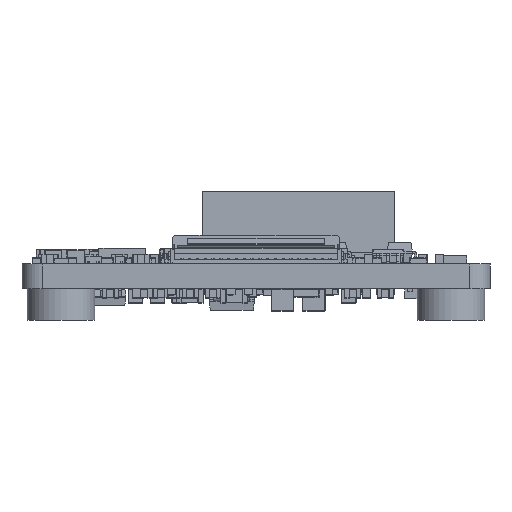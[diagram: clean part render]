
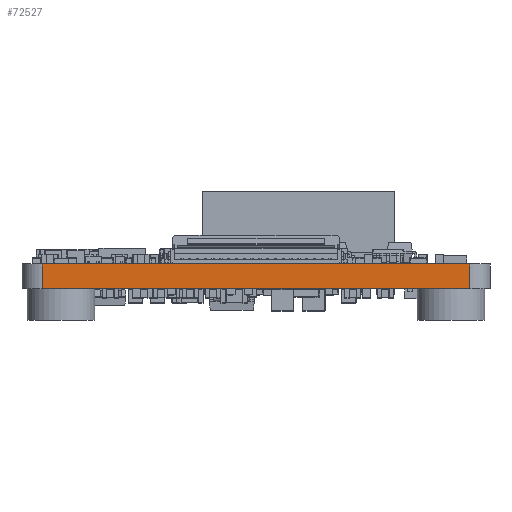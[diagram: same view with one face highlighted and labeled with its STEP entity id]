
A CAD part, front view. The second image highlights one B-rep face of the part: STEP entity #72527.
In plain terms, the highlighted planar face has unit normal (0, -1, 0).
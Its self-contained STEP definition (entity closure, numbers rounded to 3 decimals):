
#2084 = CARTESIAN_POINT ( 'NONE',  ( 13.984, 71.817, -39.658 ) ) ;
#11204 = VERTEX_POINT ( 'NONE', #45528 ) ;
#27585 = DIRECTION ( 'NONE',  ( 0., 0., 1. ) ) ;
#29909 = CARTESIAN_POINT ( 'NONE',  ( 13.984, 71.817, -39.658 ) ) ;
#30990 = ORIENTED_EDGE ( 'NONE', *, *, #83361, .F. ) ;
#34970 = LINE ( 'NONE', #52638, #153326 ) ;
#37189 = LINE ( 'NONE', #58312, #166605 ) ;
#44278 = CARTESIAN_POINT ( 'NONE',  ( -13.421, 71.817, -38.078 ) ) ;
#45528 = CARTESIAN_POINT ( 'NONE',  ( -13.421, 71.817, -39.658 ) ) ;
#52638 = CARTESIAN_POINT ( 'NONE',  ( 13.984, 71.817, -39.658 ) ) ;
#58312 = CARTESIAN_POINT ( 'NONE',  ( 13.984, 71.817, -38.078 ) ) ;
#68656 = LINE ( 'NONE', #193349, #137420 ) ;
#72527 = ADVANCED_FACE ( 'NONE', ( #180861 ), #216155, .T. ) ;
#78501 = VERTEX_POINT ( 'NONE', #44278 ) ;
#83361 = EDGE_CURVE ( 'NONE', #11204, #78501, #216381, .T. ) ;
#85055 = EDGE_CURVE ( 'NONE', #182717, #11204, #34970, .T. ) ;
#107788 = DIRECTION ( 'NONE',  ( -1., 0., 0. ) ) ;
#107882 = DIRECTION ( 'NONE',  ( -1., 0., 0. ) ) ;
#109044 = DIRECTION ( 'NONE',  ( 0., -1., 0. ) ) ;
#122263 = ORIENTED_EDGE ( 'NONE', *, *, #182733, .T. ) ;
#131499 = EDGE_CURVE ( 'NONE', #142406, #78501, #37189, .T. ) ;
#137420 = VECTOR ( 'NONE', #27585, 1000. ) ;
#142406 = VERTEX_POINT ( 'NONE', #231297 ) ;
#153326 = VECTOR ( 'NONE', #107788, 1000. ) ;
#160536 = VECTOR ( 'NONE', #197580, 1000. ) ;
#166506 = AXIS2_PLACEMENT_3D ( 'NONE', #2084, #109044, #107882 ) ;
#166605 = VECTOR ( 'NONE', #217106, 1000. ) ;
#179763 = ORIENTED_EDGE ( 'NONE', *, *, #85055, .F. ) ;
#179938 = CARTESIAN_POINT ( 'NONE',  ( -13.421, 71.817, -39.658 ) ) ;
#180861 = FACE_OUTER_BOUND ( 'NONE', #220533, .T. ) ;
#182717 = VERTEX_POINT ( 'NONE', #29909 ) ;
#182733 = EDGE_CURVE ( 'NONE', #182717, #142406, #68656, .T. ) ;
#193349 = CARTESIAN_POINT ( 'NONE',  ( 13.984, 71.817, -39.658 ) ) ;
#197580 = DIRECTION ( 'NONE',  ( 0., 0., 1. ) ) ;
#203480 = ORIENTED_EDGE ( 'NONE', *, *, #131499, .T. ) ;
#216155 = PLANE ( 'NONE',  #166506 ) ;
#216381 = LINE ( 'NONE', #179938, #160536 ) ;
#217106 = DIRECTION ( 'NONE',  ( -1., 0., 0. ) ) ;
#220533 = EDGE_LOOP ( 'NONE', ( #122263, #203480, #30990, #179763 ) ) ;
#231297 = CARTESIAN_POINT ( 'NONE',  ( 13.984, 71.817, -38.078 ) ) ;
